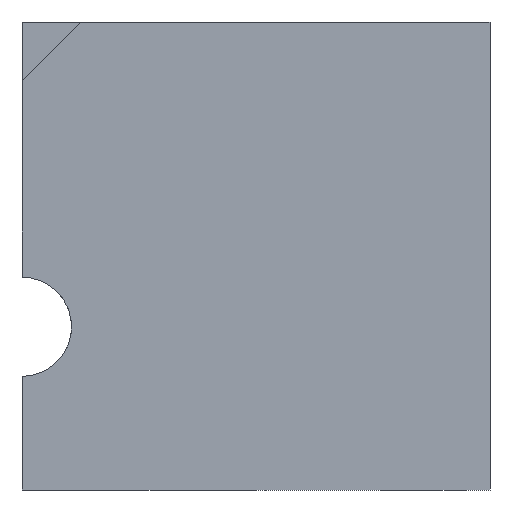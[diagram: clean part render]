
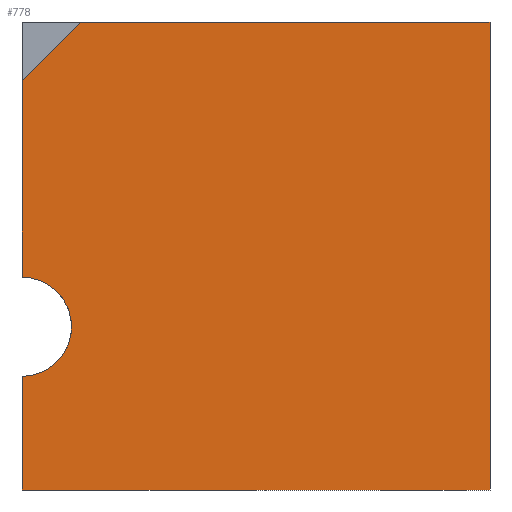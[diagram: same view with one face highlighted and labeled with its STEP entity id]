
A CAD part, left-side view. The second image highlights one B-rep face of the part: STEP entity #778.
In plain terms, the highlighted planar face has unit normal (-1, 0, 0).
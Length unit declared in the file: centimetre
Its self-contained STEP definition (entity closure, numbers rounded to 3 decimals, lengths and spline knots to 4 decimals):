
#10 = CARTESIAN_POINT ( 'NONE',  ( 0., 0., 0. ) ) ;
#35 = CARTESIAN_POINT ( 'NONE',  ( 0., 0., 1000. ) ) ;
#55 = ORIENTED_EDGE ( 'NONE', *, *, #299, .T. ) ;
#95 = VECTOR ( 'NONE', #696, 100. ) ;
#165 = AXIS2_PLACEMENT_3D ( 'NONE', #1138, #1111, #1276 ) ;
#211 = ORIENTED_EDGE ( 'NONE', *, *, #693, .F. ) ;
#223 = CARTESIAN_POINT ( 'NONE',  ( 0., 1000., 1000. ) ) ;
#230 = VECTOR ( 'NONE', #962, 100. ) ;
#294 = CARTESIAN_POINT ( 'NONE',  ( 0., 1000., 1000. ) ) ;
#295 = LINE ( 'NONE', #566, #95 ) ;
#299 = EDGE_CURVE ( 'NONE', #1425, #692, #295, .T. ) ;
#429 = CARTESIAN_POINT ( 'NONE',  ( 0., 0., 1000. ) ) ;
#452 = DIRECTION ( 'NONE',  ( 0., 0., -1. ) ) ;
#495 = CARTESIAN_POINT ( 'NONE',  ( 0., 1000., 454.7216 ) ) ;
#546 = LINE ( 'NONE', #294, #230 ) ;
#556 = FACE_OUTER_BOUND ( 'NONE', #1318, .T. ) ;
#566 = CARTESIAN_POINT ( 'NONE',  ( 0., 1000., 0. ) ) ;
#601 = LINE ( 'NONE', #971, #1481 ) ;
#616 = VECTOR ( 'NONE', #1244, 100. ) ;
#642 = VERTEX_POINT ( 'NONE', #1192 ) ;
#692 = VERTEX_POINT ( 'NONE', #10 ) ;
#693 = EDGE_CURVE ( 'NONE', #1542, #898, #546, .T. ) ;
#696 = DIRECTION ( 'NONE',  ( 0., -1., 0. ) ) ;
#698 = ORIENTED_EDGE ( 'NONE', *, *, #1692, .T. ) ;
#731 = AXIS2_PLACEMENT_3D ( 'NONE', #1536, #1528, #876 ) ;
#778 = ADVANCED_FACE ( 'NONE', ( #556 ), #1119, .F. ) ;
#787 = EDGE_CURVE ( 'NONE', #1719, #1542, #601, .T. ) ;
#822 = DIRECTION ( 'NONE',  ( 0., 0., -1. ) ) ;
#876 = DIRECTION ( 'NONE',  ( 0., 0., -1. ) ) ;
#898 = VERTEX_POINT ( 'NONE', #35 ) ;
#942 = ORIENTED_EDGE ( 'NONE', *, *, #787, .F. ) ;
#962 = DIRECTION ( 'NONE',  ( 0., -1., 0. ) ) ;
#971 = CARTESIAN_POINT ( 'NONE',  ( 0., 875.2846, 1000. ) ) ;
#1012 = CARTESIAN_POINT ( 'NONE',  ( 0., 1000., 875.2846 ) ) ;
#1022 = VECTOR ( 'NONE', #452, 100. ) ;
#1105 = LINE ( 'NONE', #1642, #1423 ) ;
#1111 = DIRECTION ( 'NONE',  ( 1., 0., 0. ) ) ;
#1119 = PLANE ( 'NONE',  #731 ) ;
#1138 = CARTESIAN_POINT ( 'NONE',  ( 0., 1000., 348.7709 ) ) ;
#1192 = CARTESIAN_POINT ( 'NONE',  ( 0., 1000., 242.8202 ) ) ;
#1194 = EDGE_CURVE ( 'NONE', #898, #692, #1499, .T. ) ;
#1217 = EDGE_CURVE ( 'NONE', #642, #1425, #1105, .T. ) ;
#1244 = DIRECTION ( 'NONE',  ( 0., 0., -1. ) ) ;
#1276 = DIRECTION ( 'NONE',  ( 0., 0., -1. ) ) ;
#1299 = ORIENTED_EDGE ( 'NONE', *, *, #1194, .F. ) ;
#1313 = CIRCLE ( 'NONE', #165, 105.9507 ) ;
#1318 = EDGE_LOOP ( 'NONE', ( #698, #1663, #1498, #55, #1299, #211, #942 ) ) ;
#1344 = VERTEX_POINT ( 'NONE', #495 ) ;
#1423 = VECTOR ( 'NONE', #822, 100. ) ;
#1425 = VERTEX_POINT ( 'NONE', #1455 ) ;
#1455 = CARTESIAN_POINT ( 'NONE',  ( 0., 1000., 0. ) ) ;
#1481 = VECTOR ( 'NONE', #1664, 100. ) ;
#1498 = ORIENTED_EDGE ( 'NONE', *, *, #1217, .T. ) ;
#1499 = LINE ( 'NONE', #429, #616 ) ;
#1528 = DIRECTION ( 'NONE',  ( 1., 0., 0. ) ) ;
#1536 = CARTESIAN_POINT ( 'NONE',  ( 0., 1000., 1000. ) ) ;
#1542 = VERTEX_POINT ( 'NONE', #1595 ) ;
#1546 = LINE ( 'NONE', #223, #1022 ) ;
#1595 = CARTESIAN_POINT ( 'NONE',  ( 0., 875.2846, 1000. ) ) ;
#1642 = CARTESIAN_POINT ( 'NONE',  ( 0., 1000., 1000. ) ) ;
#1663 = ORIENTED_EDGE ( 'NONE', *, *, #1723, .T. ) ;
#1664 = DIRECTION ( 'NONE',  ( 0., -0.707, 0.707 ) ) ;
#1692 = EDGE_CURVE ( 'NONE', #1719, #1344, #1546, .T. ) ;
#1719 = VERTEX_POINT ( 'NONE', #1012 ) ;
#1723 = EDGE_CURVE ( 'NONE', #1344, #642, #1313, .T. ) ;
